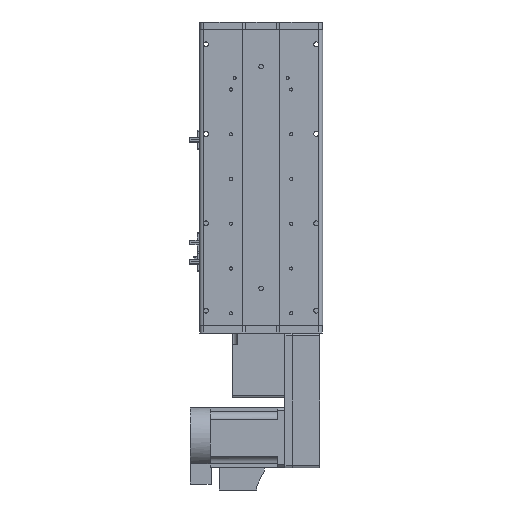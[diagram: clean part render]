
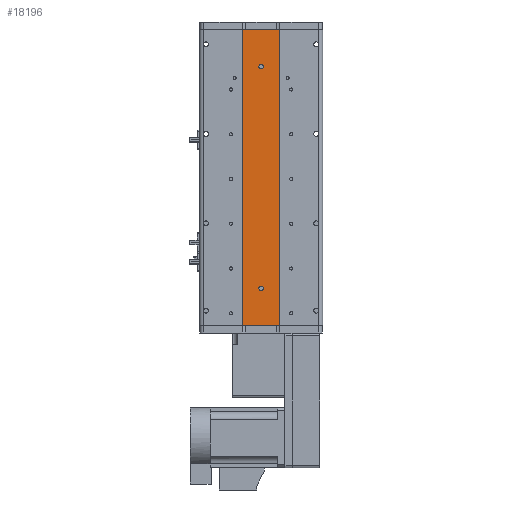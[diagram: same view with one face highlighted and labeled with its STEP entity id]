
A CAD part, front view. The second image highlights one B-rep face of the part: STEP entity #18196.
In plain terms, the highlighted planar face has unit normal (0, -1, 0).
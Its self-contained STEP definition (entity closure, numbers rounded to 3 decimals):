
#526 = CARTESIAN_POINT ( 'NONE',  ( 25., 1., 198.5 ) ) ;
#870 = CARTESIAN_POINT ( 'NONE',  ( 0., 1., 151.5 ) ) ;
#1478 = DIRECTION ( 'NONE',  ( 0., 0., 1. ) ) ;
#1810 = VERTEX_POINT ( 'NONE', #22884 ) ;
#1827 = FACE_BOUND ( 'NONE', #19831, .T. ) ;
#4516 = EDGE_CURVE ( 'NONE', #9067, #41097, #40603, .T. ) ;
#5257 = CARTESIAN_POINT ( 'NONE',  ( 0., 1., -145.5 ) ) ;
#7151 = AXIS2_PLACEMENT_3D ( 'NONE', #44145, #15458, #48979 ) ;
#7231 = DIRECTION ( 'NONE',  ( 0., 0., 1. ) ) ;
#7982 = EDGE_CURVE ( 'NONE', #42265, #33515, #19053, .T. ) ;
#9067 = VERTEX_POINT ( 'NONE', #13594 ) ;
#9923 = ORIENTED_EDGE ( 'NONE', *, *, #60130, .F. ) ;
#10310 = DIRECTION ( 'NONE',  ( 0., 1., 0. ) ) ;
#10883 = ORIENTED_EDGE ( 'NONE', *, *, #32647, .F. ) ;
#11553 = VERTEX_POINT ( 'NONE', #61500 ) ;
#11668 = EDGE_CURVE ( 'NONE', #59134, #13930, #49753, .T. ) ;
#12163 = AXIS2_PLACEMENT_3D ( 'NONE', #55822, #27046, #60614 ) ;
#13594 = CARTESIAN_POINT ( 'NONE',  ( 0., 1., 145.5 ) ) ;
#13930 = VERTEX_POINT ( 'NONE', #60522 ) ;
#14758 = EDGE_LOOP ( 'NONE', ( #41008, #9923, #10883, #21558 ) ) ;
#15458 = DIRECTION ( 'NONE',  ( 0., 1., 0. ) ) ;
#17418 = ORIENTED_EDGE ( 'NONE', *, *, #35907, .T. ) ;
#18196 = ADVANCED_FACE ( 'NONE', ( #25776, #1827, #41552 ), #31096, .F. ) ;
#19053 = LINE ( 'NONE', #47346, #43056 ) ;
#19831 = EDGE_LOOP ( 'NONE', ( #42781, #17418 ) ) ;
#20219 = CIRCLE ( 'NONE', #22098, 3. ) ;
#21124 = CIRCLE ( 'NONE', #7151, 3. ) ;
#21558 = ORIENTED_EDGE ( 'NONE', *, *, #7982, .T. ) ;
#22098 = AXIS2_PLACEMENT_3D ( 'NONE', #58887, #30132, #1478 ) ;
#22884 = CARTESIAN_POINT ( 'NONE',  ( 25., 1., -198.5 ) ) ;
#24331 = EDGE_CURVE ( 'NONE', #13930, #59134, #20219, .T. ) ;
#25776 = FACE_BOUND ( 'NONE', #29148, .T. ) ;
#27046 = DIRECTION ( 'NONE',  ( 0., 1., 0. ) ) ;
#29148 = EDGE_LOOP ( 'NONE', ( #49979, #45434 ) ) ;
#29357 = LINE ( 'NONE', #526, #54914 ) ;
#30132 = DIRECTION ( 'NONE',  ( 0., 1., 0. ) ) ;
#31096 = PLANE ( 'NONE',  #51144 ) ;
#31205 = VECTOR ( 'NONE', #61633, 1000. ) ;
#32647 = EDGE_CURVE ( 'NONE', #42265, #11553, #52038, .T. ) ;
#32912 = CARTESIAN_POINT ( 'NONE',  ( 25., 1., -198.5 ) ) ;
#33515 = VERTEX_POINT ( 'NONE', #45929 ) ;
#35907 = EDGE_CURVE ( 'NONE', #41097, #9067, #21124, .T. ) ;
#35916 = DIRECTION ( 'NONE',  ( 0., 1., 0. ) ) ;
#39035 = CARTESIAN_POINT ( 'NONE',  ( 0., 1., -148.5 ) ) ;
#40603 = CIRCLE ( 'NONE', #12163, 3. ) ;
#40747 = VECTOR ( 'NONE', #47717, 1000. ) ;
#41008 = ORIENTED_EDGE ( 'NONE', *, *, #45210, .T. ) ;
#41097 = VERTEX_POINT ( 'NONE', #870 ) ;
#41552 = FACE_OUTER_BOUND ( 'NONE', #14758, .T. ) ;
#42238 = CARTESIAN_POINT ( 'NONE',  ( -25., 1., 198.5 ) ) ;
#42265 = VERTEX_POINT ( 'NONE', #42238 ) ;
#42781 = ORIENTED_EDGE ( 'NONE', *, *, #4516, .T. ) ;
#43056 = VECTOR ( 'NONE', #52211, 1000. ) ;
#43101 = CARTESIAN_POINT ( 'NONE',  ( 25., 1., 198.5 ) ) ;
#43437 = DIRECTION ( 'NONE',  ( 0., 0., -1. ) ) ;
#43850 = DIRECTION ( 'NONE',  ( 0., 0., 1. ) ) ;
#44145 = CARTESIAN_POINT ( 'NONE',  ( 0., 1., 148.5 ) ) ;
#45210 = EDGE_CURVE ( 'NONE', #33515, #1810, #56757, .T. ) ;
#45434 = ORIENTED_EDGE ( 'NONE', *, *, #11668, .T. ) ;
#45929 = CARTESIAN_POINT ( 'NONE',  ( -25., 1., -198.5 ) ) ;
#47346 = CARTESIAN_POINT ( 'NONE',  ( -25., 1., 198.5 ) ) ;
#47717 = DIRECTION ( 'NONE',  ( 1., 0., 0. ) ) ;
#48979 = DIRECTION ( 'NONE',  ( 0., 0., 1. ) ) ;
#49753 = CIRCLE ( 'NONE', #61115, 3. ) ;
#49979 = ORIENTED_EDGE ( 'NONE', *, *, #24331, .T. ) ;
#51144 = AXIS2_PLACEMENT_3D ( 'NONE', #55021, #35916, #7231 ) ;
#52038 = LINE ( 'NONE', #43101, #40747 ) ;
#52211 = DIRECTION ( 'NONE',  ( 0., 0., -1. ) ) ;
#54914 = VECTOR ( 'NONE', #43437, 1000. ) ;
#55021 = CARTESIAN_POINT ( 'NONE',  ( 25., 1., 198.5 ) ) ;
#55822 = CARTESIAN_POINT ( 'NONE',  ( 0., 1., 148.5 ) ) ;
#56757 = LINE ( 'NONE', #32912, #31205 ) ;
#58887 = CARTESIAN_POINT ( 'NONE',  ( 0., 1., -148.5 ) ) ;
#59134 = VERTEX_POINT ( 'NONE', #5257 ) ;
#60130 = EDGE_CURVE ( 'NONE', #11553, #1810, #29357, .T. ) ;
#60522 = CARTESIAN_POINT ( 'NONE',  ( 0., 1., -151.5 ) ) ;
#60614 = DIRECTION ( 'NONE',  ( 0., 0., 1. ) ) ;
#61115 = AXIS2_PLACEMENT_3D ( 'NONE', #39035, #10310, #43850 ) ;
#61500 = CARTESIAN_POINT ( 'NONE',  ( 25., 1., 198.5 ) ) ;
#61633 = DIRECTION ( 'NONE',  ( 1., 0., 0. ) ) ;
